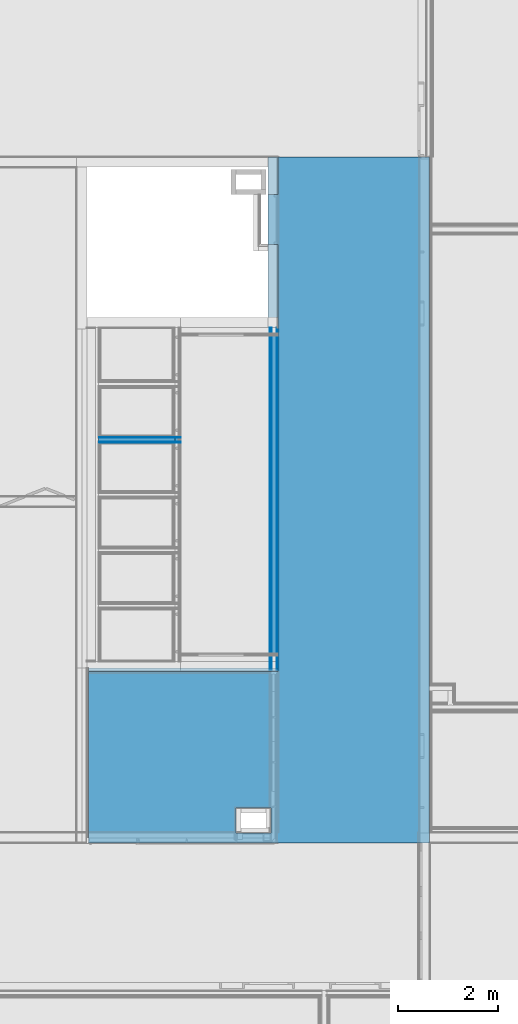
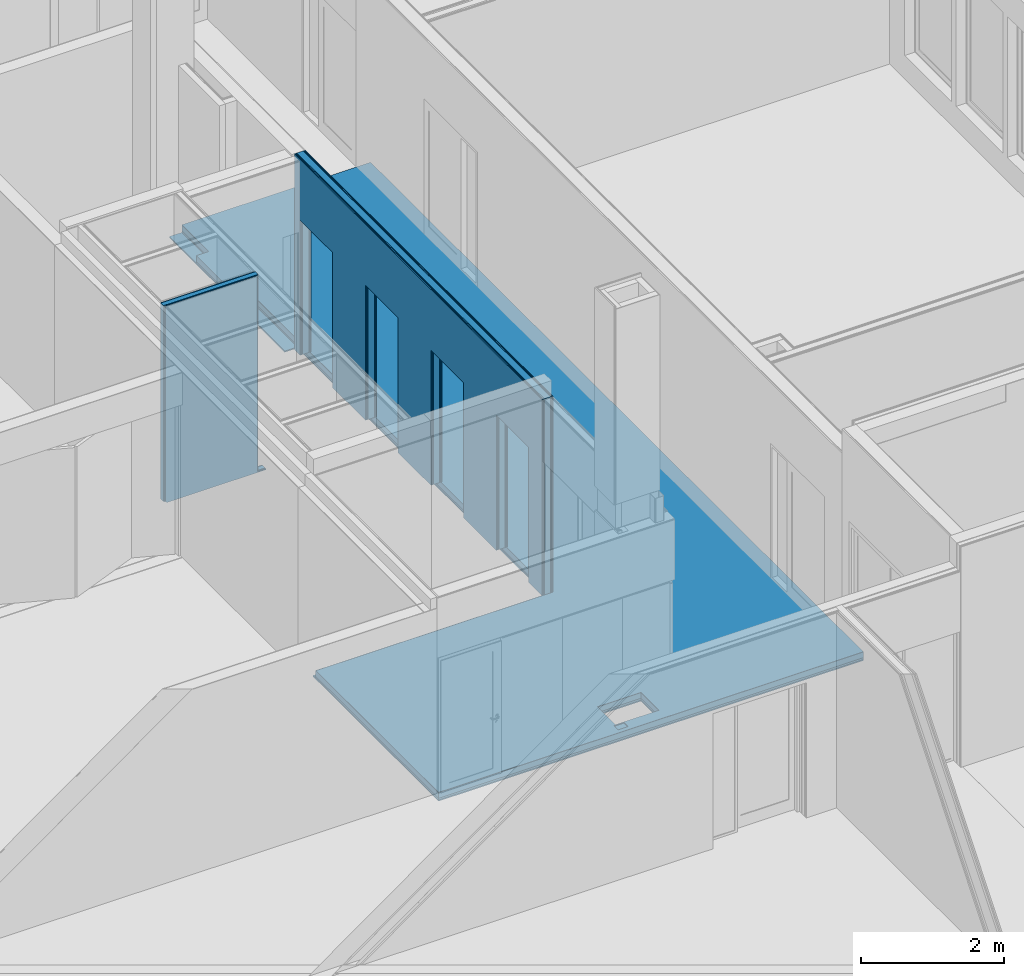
# One storey, part 115 of 139: 15 building element parts, 4 openings, 3 elements without a shape of their own.
"""IFC2X3 building model written with IfcOpenShell, lengths in millimetres."""

from ifc_helpers import new_model, entity, si_unit, converted_unit, derived_unit, money_unit, direction, frame, origin_with_axes, place, context, subcontext, project, spatial, faceted_brep, material, type_object, element, aggregate, save


model = new_model("IFC2X3")

# Units and contexts
model_context = context("Model", 3, precision=0.01, world=origin_with_axes(), true_north=direction((0.0, 1.0)))
body_context = subcontext(model_context, "Body", "Model", "MODEL_VIEW")
ifc_project = project(units=[si_unit("LENGTHUNIT", "METRE", prefix="MILLI"), si_unit("AREAUNIT", "SQUARE_METRE"), si_unit("VOLUMEUNIT", "CUBIC_METRE"), converted_unit("PLANEANGLEUNIT", "DEGREE", entity("IfcPlaneAngleMeasure", 0.0174532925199), si_unit("PLANEANGLEUNIT", "RADIAN"), dimensions=[0, 0, 0, 0, 0, 0, 0]), money_unit("EUR"), converted_unit("TIMEUNIT", "Year", entity("IfcTimeMeasure", 31556926.0), si_unit("TIMEUNIT", "SECOND"), dimensions=[0, 0, 1, 0, 0, 0, 0]), si_unit("MASSUNIT", "GRAM", prefix="KILO"), si_unit("THERMODYNAMICTEMPERATUREUNIT", "DEGREE_CELSIUS"), si_unit("LUMINOUSINTENSITYUNIT", "LUMEN"), si_unit("ENERGYUNIT", "JOULE", prefix="MEGA"), derived_unit("THERMALCONDUCTANCEUNIT", [(si_unit("POWERUNIT", "WATT"), 1), (si_unit("LENGTHUNIT", "METRE"), -1), (si_unit("THERMODYNAMICTEMPERATUREUNIT", "KELVIN"), -1)]), derived_unit("SPECIFICHEATCAPACITYUNIT", [(si_unit("ENERGYUNIT", "JOULE"), 1), (si_unit("MASSUNIT", "GRAM", prefix="KILO"), -1), (si_unit("THERMODYNAMICTEMPERATUREUNIT", "KELVIN"), -1)]), derived_unit("MASSDENSITYUNIT", [(si_unit("MASSUNIT", "GRAM", prefix="KILO"), 1), (si_unit("VOLUMEUNIT", "CUBIC_METRE"), -1)])], contexts=[model_context])

# Site, building, storey
site_placement = place(None, origin_with_axes())
site = spatial("IfcSite", under=ifc_project, at=site_placement, Name="Kolde pst 67a", CompositionType="ELEMENT")
building_placement = place(site_placement, origin_with_axes())
building = spatial("IfcBuilding", under=site, at=building_placement, Name="Riigigümnaasium", CompositionType="ELEMENT")
storey_placement = place(building_placement, frame((0.0, 0.0, 4600.0), z_axis=(0.0, 0.0, 1.0), x_axis=(1.0, 0.0, 0.0)))
storey = spatial("IfcBuildingStorey", under=building, at=storey_placement, Name="2. korrus", CompositionType="ELEMENT", Elevation=4600.0)

# Wall, openings, building element parts
wall_type_1 = type_object("IfcWallType", Name="SS-MK-10/7_ plaat+krohv 175", PredefinedType="NOTDEFINED")
wall_1_placement = place(storey_placement, frame((73794.99953, 21023.7853231, 0.0), z_axis=(0.0, 0.0, 1.0), x_axis=(0.0, -1.0, 0.0)))
wall_1 = element("IfcWall", 1, at=wall_1_placement, inside=storey, type_object=wall_type_1, Name="Sisesein")
opening_1_placement = place(wall_1_placement, frame((6083.82001111, 0.0, 0.0), z_axis=(0.0, 0.0, 1.0), x_axis=(1.0, 0.0, 0.0)))
element("IfcOpeningElement", 2, at=opening_1_placement, cuts=wall_1, Name="Ukseava", context=body_context, shape_type="Brep", body=[
    faceted_brep([(450.0, 350.0, 0.0), (450.0, 350.0, 2300.0), (450.0, -175.0, 2300.0), (450.0, -175.0, 0.0), (-450.0, 350.0, 0.0), (-450.0, 350.0, 2300.0), (-450.0, -175.0, 2300.0), (-450.0, -175.0, 0.0)], [[[0, 1, 2, 3]], [[0, 4, 5, 1]], [[1, 5, 6, 2]], [[3, 2, 6, 7]], [[4, 0, 3, 7]], [[5, 4, 7, 6]]]),
])
opening_2_placement = place(wall_1_placement, frame((4258.82001111, 0.0, 0.0), z_axis=(0.0, 0.0, 1.0), x_axis=(1.0, 0.0, 0.0)))
element("IfcOpeningElement", 3, at=opening_2_placement, cuts=wall_1, Name="Ukseava", context=body_context, shape_type="Brep", body=[
    faceted_brep([(450.0, 350.0, 0.0), (450.0, 350.0, 2300.0), (450.0, -175.0, 2300.0), (450.0, -175.0, 0.0), (-450.0, 350.0, 0.0), (-450.0, 350.0, 2300.0), (-450.0, -175.0, 2300.0), (-450.0, -175.0, 0.0)], [[[0, 1, 2, 3]], [[0, 4, 5, 1]], [[1, 5, 6, 2]], [[3, 2, 6, 7]], [[4, 0, 3, 7]], [[5, 4, 7, 6]]]),
])
opening_3_placement = place(wall_1_placement, frame((2433.82001111, 0.0, 0.0), z_axis=(0.0, 0.0, 1.0), x_axis=(1.0, 0.0, 0.0)))
element("IfcOpeningElement", 4, at=opening_3_placement, cuts=wall_1, Name="Ukseava", context=body_context, shape_type="Brep", body=[
    faceted_brep([(450.0, 350.0, 0.0), (450.0, 350.0, 2300.0), (450.0, -175.0, 2300.0), (450.0, -175.0, 0.0), (-450.0, 350.0, 0.0), (-450.0, 350.0, 2300.0), (-450.0, -175.0, 2300.0), (-450.0, -175.0, 0.0)], [[[0, 1, 2, 3]], [[0, 4, 5, 1]], [[1, 5, 6, 2]], [[3, 2, 6, 7]], [[4, 0, 3, 7]], [[5, 4, 7, 6]]]),
])
opening_4_placement = place(wall_1_placement, frame((608.785339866, 0.0, 0.0), z_axis=(0.0, 0.0, 1.0), x_axis=(1.0, 0.0, 0.0)))
element("IfcOpeningElement", 5, at=opening_4_placement, cuts=wall_1, Name="Ukseava", context=body_context, shape_type="Brep", body=[
    faceted_brep([(450.0, 350.0, 0.0), (450.0, 350.0, 2300.0), (450.0, -175.0, 2300.0), (450.0, -175.0, 0.0), (-450.0, 350.0, 0.0), (-450.0, 350.0, 2300.0), (-450.0, -175.0, 2300.0), (-450.0, -175.0, 0.0)], [[[0, 1, 2, 3]], [[0, 4, 5, 1]], [[1, 5, 6, 2]], [[3, 2, 6, 7]], [[4, 0, 3, 7]], [[5, 4, 7, 6]]]),
])
ifc_material_1 = material(Name="_VIIMISTLUSKIHT - viimistlus vastavalt SA osale")
building_element_part_1_placement = place(wall_1_placement, origin_with_axes())
building_element_part_1 = element("IfcBuildingElementPart", 6, at=building_element_part_1_placement, material=ifc_material_1, Name="_VIIMISTLUSKIHT - viimistlus vastavalt SA osale", context=body_context, shape_type="Brep", body=[
    faceted_brep([(1058.78533987, 0.0, 0.0), (1058.78533987, 0.0, 2300.0), (158.785339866, 0.0, 2300.0), (158.785339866, 0.0, 0.0), (0.0, 0.0, 0.0), (0.0, 0.0, 3335.0), (6904.42001122, 0.0, 3335.0), (6904.42001122, 0.0, 0.0), (6533.82001111, 0.0, 0.0), (6533.82001111, 0.0, 2300.0), (5633.82001111, 0.0, 2300.0), (5633.82001111, 0.0, 0.0), (4708.82001111, 0.0, 0.0), (4708.82001111, 0.0, 2300.0), (3808.82001111, 0.0, 2300.0), (3808.82001111, 0.0, 0.0), (2883.82001111, 0.0, 0.0), (2883.82001111, 0.0, 2300.0), (1983.82001111, 0.0, 2300.0), (1983.82001111, 0.0, 0.0), (1058.78533987, -10.0, 0.0), (1058.78533987, -10.0, 2300.0), (158.785339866, -10.0, 2300.0), (158.785339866, -10.0, 0.0), (0.0, -10.0, 0.0), (0.0, -10.0, 3335.0), (6904.42001122, -10.0, 3335.0), (6904.42001122, -10.0, 0.0), (6533.82001111, -10.0, 0.0), (6533.82001111, -10.0, 2300.0), (5633.82001111, -10.0, 2300.0), (5633.82001111, -10.0, 0.0), (4708.82001111, -10.0, 0.0), (4708.82001111, -10.0, 2300.0), (3808.82001111, -10.0, 2300.0), (3808.82001111, -10.0, 0.0), (2883.82001111, -10.0, 0.0), (2883.82001111, -10.0, 2300.0), (1983.82001111, -10.0, 2300.0), (1983.82001111, -10.0, 0.0)], [[[0, 1, 2, 3, 4, 5, 6, 7, 8, 9, 10, 11, 12, 13, 14, 15, 16, 17, 18, 19]], [[1, 0, 20, 21]], [[2, 1, 21, 22]], [[3, 2, 22, 23]], [[3, 23, 24, 4]], [[25, 5, 4, 24]], [[25, 26, 6, 5]], [[6, 26, 27, 7]], [[27, 28, 8, 7]], [[29, 9, 8, 28]], [[30, 10, 9, 29]], [[31, 11, 10, 30]], [[11, 31, 32, 12]], [[32, 33, 13, 12]], [[33, 34, 14, 13]], [[34, 35, 15, 14]], [[16, 15, 35, 36]], [[16, 36, 37, 17]], [[17, 37, 38, 18]], [[18, 38, 39, 19]], [[20, 0, 19, 39]], [[21, 20, 39, 38, 37, 36, 35, 34, 33, 32, 31, 30, 29, 28, 27, 26, 25, 24, 23, 22]]]),
])
ifc_material_2 = material(Name="_PLAATMATERJAL - tuletõkkekipsplaat, Knauf Red GKF või samaväärne")
building_element_part_2_placement = place(wall_1_placement, origin_with_axes())
building_element_part_2 = element("IfcBuildingElementPart", 7, at=building_element_part_2_placement, material=ifc_material_2, Name="_PLAATMATERJAL - tuletõkkekipsplaat, Knauf Red GKF või samaväärne", context=body_context, shape_type="Brep", body=[
    faceted_brep([(1058.78533987, -10.0, 0.0), (1058.78533987, -10.0, 2300.0), (158.785339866, -10.0, 2300.0), (158.785339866, -10.0, 0.0), (0.0, -10.0, 0.0), (0.0, -10.0, 3335.0), (6904.42001122, -10.0, 3335.0), (6904.42001122, -10.0, 0.0), (6533.82001111, -10.0, 0.0), (6533.82001111, -10.0, 2300.0), (5633.82001111, -10.0, 2300.0), (5633.82001111, -10.0, 0.0), (4708.82001111, -10.0, 0.0), (4708.82001111, -10.0, 2300.0), (3808.82001111, -10.0, 2300.0), (3808.82001111, -10.0, 0.0), (2883.82001111, -10.0, 0.0), (2883.82001111, -10.0, 2300.0), (1983.82001111, -10.0, 2300.0), (1983.82001111, -10.0, 0.0), (1058.78533987, -22.5, 0.0), (1058.78533987, -22.5, 2300.0), (158.785339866, -22.5, 2300.0), (158.785339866, -22.5, 0.0), (0.0, -22.5, 0.0), (0.0, -22.5, 3335.0), (6904.42001122, -22.5, 3335.0), (6904.42001122, -22.5, 0.0), (6533.82001111, -22.5, 0.0), (6533.82001111, -22.5, 2300.0), (5633.82001111, -22.5, 2300.0), (5633.82001111, -22.5, 0.0), (4708.82001111, -22.5, 0.0), (4708.82001111, -22.5, 2300.0), (3808.82001111, -22.5, 2300.0), (3808.82001111, -22.5, 0.0), (2883.82001111, -22.5, 0.0), (2883.82001111, -22.5, 2300.0), (1983.82001111, -22.5, 2300.0), (1983.82001111, -22.5, 0.0)], [[[0, 1, 2, 3, 4, 5, 6, 7, 8, 9, 10, 11, 12, 13, 14, 15, 16, 17, 18, 19]], [[1, 0, 20, 21]], [[2, 1, 21, 22]], [[3, 2, 22, 23]], [[3, 23, 24, 4]], [[25, 5, 4, 24]], [[26, 6, 5, 25]], [[6, 26, 27, 7]], [[27, 28, 8, 7]], [[29, 9, 8, 28]], [[30, 10, 9, 29]], [[31, 11, 10, 30]], [[11, 31, 32, 12]], [[32, 33, 13, 12]], [[33, 34, 14, 13]], [[34, 35, 15, 14]], [[16, 15, 35, 36]], [[16, 36, 37, 17]], [[17, 37, 38, 18]], [[18, 38, 39, 19]], [[20, 0, 19, 39]], [[21, 20, 39, 38, 37, 36, 35, 34, 33, 32, 31, 30, 29, 28, 27, 26, 25, 24, 23, 22]]]),
])
building_element_part_3_placement = place(wall_1_placement, origin_with_axes())
building_element_part_3 = element("IfcBuildingElementPart", 8, at=building_element_part_3_placement, material=ifc_material_2, Name="_PLAATMATERJAL - tuletõkkekipsplaat, Knauf Red GKF või samaväärne", context=body_context, shape_type="Brep", body=[
    faceted_brep([(1058.78533987, -22.5, 0.0), (1058.78533987, -22.5, 2300.0), (158.785339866, -22.5, 2300.0), (158.785339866, -22.5, 0.0), (0.0, -22.5, 0.0), (0.0, -22.5, 3335.0), (6904.42001122, -22.5, 3335.0), (6904.42001122, -22.5, 0.0), (6533.82001111, -22.5, 0.0), (6533.82001111, -22.5, 2300.0), (5633.82001111, -22.5, 2300.0), (5633.82001111, -22.5, 0.0), (4708.82001111, -22.5, 0.0), (4708.82001111, -22.5, 2300.0), (3808.82001111, -22.5, 2300.0), (3808.82001111, -22.5, 0.0), (2883.82001111, -22.5, 0.0), (2883.82001111, -22.5, 2300.0), (1983.82001111, -22.5, 2300.0), (1983.82001111, -22.5, 0.0), (1058.78533987, -35.0, 0.0), (1058.78533987, -35.0, 2300.0), (158.785339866, -35.0, 2300.0), (158.785339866, -35.0, 0.0), (0.0, -35.0, 0.0), (0.0, -35.0, 3335.0), (6904.42001122, -35.0, 3335.0), (6904.42001122, -35.0, 0.0), (6533.82001111, -35.0, 0.0), (6533.82001111, -35.0, 2300.0), (5633.82001111, -35.0, 2300.0), (5633.82001111, -35.0, 0.0), (4708.82001111, -35.0, 0.0), (4708.82001111, -35.0, 2300.0), (3808.82001111, -35.0, 2300.0), (3808.82001111, -35.0, 0.0), (2883.82001111, -35.0, 0.0), (2883.82001111, -35.0, 2300.0), (1983.82001111, -35.0, 2300.0), (1983.82001111, -35.0, 0.0)], [[[0, 1, 2, 3, 4, 5, 6, 7, 8, 9, 10, 11, 12, 13, 14, 15, 16, 17, 18, 19]], [[1, 0, 20, 21]], [[2, 1, 21, 22]], [[3, 2, 22, 23]], [[3, 23, 24, 4]], [[25, 5, 4, 24]], [[5, 25, 26, 6]], [[6, 26, 27, 7]], [[27, 28, 8, 7]], [[29, 9, 8, 28]], [[30, 10, 9, 29]], [[31, 11, 10, 30]], [[11, 31, 32, 12]], [[32, 33, 13, 12]], [[33, 34, 14, 13]], [[34, 35, 15, 14]], [[16, 15, 35, 36]], [[16, 36, 37, 17]], [[17, 37, 38, 18]], [[18, 38, 39, 19]], [[20, 0, 19, 39]], [[21, 20, 39, 38, 37, 36, 35, 34, 33, 32, 31, 30, 29, 28, 27, 26, 25, 24, 23, 22]]]),
])
ifc_material_3 = material(Name="_KARKASS - metallkarkass CW 100/50/06 ja UW 100/40/06, samm 600, vahel mineraalvill, helineeldetegur αw = 1.0,  ISOVER ACOUSTIC 100mm või samaväärne")
building_element_part_4_placement = place(wall_1_placement, origin_with_axes())
building_element_part_4 = element("IfcBuildingElementPart", 9, at=building_element_part_4_placement, material=ifc_material_3, Name="_KARKASS - metallkarkass CW 100/50/06 ja UW 100/40/06, samm 600, vahel mineraalvill, helineeldetegur αw = 1.0,  ISOVER ACOUSTIC 100mm või samaväärne", context=body_context, shape_type="Brep", body=[
    faceted_brep([(1058.78533987, -35.0, 0.0), (1058.78533987, -35.0, 2300.0), (158.785339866, -35.0, 2300.0), (158.785339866, -35.0, 0.0), (0.0, -35.0, 0.0), (0.0, -35.0, 3335.0), (6904.42001122, -35.0, 3335.0), (6904.42001122, -35.0, 0.0), (6533.82001111, -35.0, 0.0), (6533.82001111, -35.0, 2300.0), (5633.82001111, -35.0, 2300.0), (5633.82001111, -35.0, 0.0), (4708.82001111, -35.0, 0.0), (4708.82001111, -35.0, 2300.0), (3808.82001111, -35.0, 2300.0), (3808.82001111, -35.0, 0.0), (2883.82001111, -35.0, 0.0), (2883.82001111, -35.0, 2300.0), (1983.82001111, -35.0, 2300.0), (1983.82001111, -35.0, 0.0), (1058.78533987, -135.0, 0.0), (1058.78533987, -135.0, 2300.0), (158.785339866, -135.0, 2300.0), (158.785339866, -135.0, 0.0), (0.0, -135.0, 0.0), (0.0, -135.0, 3335.0), (6904.42001122, -135.0, 3335.0), (6904.42001122, -135.0, 0.0), (6533.82001111, -135.0, 0.0), (6533.82001111, -135.0, 2300.0), (5633.82001111, -135.0, 2300.0), (5633.82001111, -135.0, 0.0), (4708.82001111, -135.0, 0.0), (4708.82001111, -135.0, 2300.0), (3808.82001111, -135.0, 2300.0), (3808.82001111, -135.0, 0.0), (2883.82001111, -135.0, 0.0), (2883.82001111, -135.0, 2300.0), (1983.82001111, -135.0, 2300.0), (1983.82001111, -135.0, 0.0)], [[[0, 1, 2, 3, 4, 5, 6, 7, 8, 9, 10, 11, 12, 13, 14, 15, 16, 17, 18, 19]], [[1, 0, 20, 21]], [[2, 1, 21, 22]], [[3, 2, 22, 23]], [[3, 23, 24, 4]], [[25, 5, 4, 24]], [[5, 25, 26, 6]], [[6, 26, 27, 7]], [[27, 28, 8, 7]], [[29, 9, 8, 28]], [[30, 10, 9, 29]], [[31, 11, 10, 30]], [[11, 31, 32, 12]], [[32, 33, 13, 12]], [[33, 34, 14, 13]], [[34, 35, 15, 14]], [[16, 15, 35, 36]], [[16, 36, 37, 17]], [[17, 37, 38, 18]], [[18, 38, 39, 19]], [[20, 0, 19, 39]], [[21, 20, 39, 38, 37, 36, 35, 34, 33, 32, 31, 30, 29, 28, 27, 26, 25, 24, 23, 22]]]),
])
building_element_part_5_placement = place(wall_1_placement, origin_with_axes())
building_element_part_5 = element("IfcBuildingElementPart", 10, at=building_element_part_5_placement, material=ifc_material_2, Name="_PLAATMATERJAL - tuletõkkekipsplaat, Knauf Red GKF või samaväärne", context=body_context, shape_type="Brep", body=[
    faceted_brep([(1058.78533987, -135.0, 0.0), (1058.78533987, -135.0, 2300.0), (158.785339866, -135.0, 2300.0), (158.785339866, -135.0, 0.0), (0.0, -135.0, 0.0), (0.0, -135.0, 3335.0), (6904.42001122, -135.0, 3335.0), (6904.42001122, -135.0, 0.0), (6533.82001111, -135.0, 0.0), (6533.82001111, -135.0, 2300.0), (5633.82001111, -135.0, 2300.0), (5633.82001111, -135.0, 0.0), (4708.82001111, -135.0, 0.0), (4708.82001111, -135.0, 2300.0), (3808.82001111, -135.0, 2300.0), (3808.82001111, -135.0, 0.0), (2883.82001111, -135.0, 0.0), (2883.82001111, -135.0, 2300.0), (1983.82001111, -135.0, 2300.0), (1983.82001111, -135.0, 0.0), (1058.78533987, -147.5, 0.0), (1058.78533987, -147.5, 2300.0), (158.785339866, -147.5, 2300.0), (158.785339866, -147.5, 0.0), (0.0, -147.5, 0.0), (0.0, -147.5, 3335.0), (6904.42001122, -147.5, 3335.0), (6904.42001122, -147.5, 0.0), (6533.82001111, -147.5, 0.0), (6533.82001111, -147.5, 2300.0), (5633.82001111, -147.5, 2300.0), (5633.82001111, -147.5, 0.0), (4708.82001111, -147.5, 0.0), (4708.82001111, -147.5, 2300.0), (3808.82001111, -147.5, 2300.0), (3808.82001111, -147.5, 0.0), (2883.82001111, -147.5, 0.0), (2883.82001111, -147.5, 2300.0), (1983.82001111, -147.5, 2300.0), (1983.82001111, -147.5, 0.0)], [[[0, 1, 2, 3, 4, 5, 6, 7, 8, 9, 10, 11, 12, 13, 14, 15, 16, 17, 18, 19]], [[1, 0, 20, 21]], [[2, 1, 21, 22]], [[3, 2, 22, 23]], [[3, 23, 24, 4]], [[25, 5, 4, 24]], [[5, 25, 26, 6]], [[6, 26, 27, 7]], [[27, 28, 8, 7]], [[29, 9, 8, 28]], [[30, 10, 9, 29]], [[31, 11, 10, 30]], [[11, 31, 32, 12]], [[32, 33, 13, 12]], [[33, 34, 14, 13]], [[34, 35, 15, 14]], [[16, 15, 35, 36]], [[16, 36, 37, 17]], [[17, 37, 38, 18]], [[18, 38, 39, 19]], [[20, 0, 19, 39]], [[21, 20, 39, 38, 37, 36, 35, 34, 33, 32, 31, 30, 29, 28, 27, 26, 25, 24, 23, 22]]]),
])
building_element_part_6_placement = place(wall_1_placement, origin_with_axes())
building_element_part_6 = element("IfcBuildingElementPart", 11, at=building_element_part_6_placement, material=ifc_material_2, Name="_PLAATMATERJAL - tuletõkkekipsplaat, Knauf Red GKF või samaväärne", context=body_context, shape_type="Brep", body=[
    faceted_brep([(1058.78533987, -147.5, 0.0), (1058.78533987, -147.5, 2300.0), (158.785339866, -147.5, 2300.0), (158.785339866, -147.5, 0.0), (0.0, -147.5, 0.0), (0.0, -147.5, 3335.0), (6904.42001122, -147.5, 3335.0), (6904.42001122, -147.5, 0.0), (6533.82001111, -147.5, 0.0), (6533.82001111, -147.5, 2300.0), (5633.82001111, -147.5, 2300.0), (5633.82001111, -147.5, 0.0), (4708.82001111, -147.5, 0.0), (4708.82001111, -147.5, 2300.0), (3808.82001111, -147.5, 2300.0), (3808.82001111, -147.5, 0.0), (2883.82001111, -147.5, 0.0), (2883.82001111, -147.5, 2300.0), (1983.82001111, -147.5, 2300.0), (1983.82001111, -147.5, 0.0), (1058.78533987, -160.0, 0.0), (1058.78533987, -160.0, 2300.0), (158.785339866, -160.0, 2300.0), (158.785339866, -160.0, 0.0), (0.0, -160.0, 0.0), (0.0, -160.0, 3335.0), (6904.42001122, -160.0, 3335.0), (6904.42001122, -160.0, 0.0), (6533.82001111, -160.0, 0.0), (6533.82001111, -160.0, 2300.0), (5633.82001111, -160.0, 2300.0), (5633.82001111, -160.0, 0.0), (4708.82001111, -160.0, 0.0), (4708.82001111, -160.0, 2300.0), (3808.82001111, -160.0, 2300.0), (3808.82001111, -160.0, 0.0), (2883.82001111, -160.0, 0.0), (2883.82001111, -160.0, 2300.0), (1983.82001111, -160.0, 2300.0), (1983.82001111, -160.0, 0.0)], [[[0, 1, 2, 3, 4, 5, 6, 7, 8, 9, 10, 11, 12, 13, 14, 15, 16, 17, 18, 19]], [[1, 0, 20, 21]], [[2, 1, 21, 22]], [[3, 2, 22, 23]], [[3, 23, 24, 4]], [[25, 5, 4, 24]], [[5, 25, 26, 6]], [[6, 26, 27, 7]], [[27, 28, 8, 7]], [[29, 9, 8, 28]], [[30, 10, 9, 29]], [[31, 11, 10, 30]], [[11, 31, 32, 12]], [[32, 33, 13, 12]], [[33, 34, 14, 13]], [[34, 35, 15, 14]], [[16, 15, 35, 36]], [[16, 36, 37, 17]], [[17, 37, 38, 18]], [[18, 38, 39, 19]], [[20, 0, 19, 39]], [[21, 20, 39, 38, 37, 36, 35, 34, 33, 32, 31, 30, 29, 28, 27, 26, 25, 24, 23, 22]]]),
])
building_element_part_7_placement = place(wall_1_placement, origin_with_axes())
building_element_part_7 = element("IfcBuildingElementPart", 12, at=building_element_part_7_placement, material=ifc_material_1, Name="_VIIMISTLUSKIHT - viimistlus vastavalt SA osale", context=body_context, shape_type="Brep", body=[
    faceted_brep([(1058.78533987, -160.0, 0.0), (1058.78533987, -160.0, 2300.0), (158.785339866, -160.0, 2300.0), (158.785339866, -160.0, 0.0), (0.0, -160.0, 0.0), (0.0, -160.0, 3335.0), (6904.42001122, -160.0, 3335.0), (6904.42001122, -160.0, 0.0), (6533.82001111, -160.0, 0.0), (6533.82001111, -160.0, 2300.0), (5633.82001111, -160.0, 2300.0), (5633.82001111, -160.0, 0.0), (4708.82001111, -160.0, 0.0), (4708.82001111, -160.0, 2300.0), (3808.82001111, -160.0, 2300.0), (3808.82001111, -160.0, 0.0), (2883.82001111, -160.0, 0.0), (2883.82001111, -160.0, 2300.0), (1983.82001111, -160.0, 2300.0), (1983.82001111, -160.0, 0.0), (1058.78533987, -175.0, 0.0), (1058.78533987, -175.0, 2300.0), (158.785339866, -175.0, 2300.0), (158.785339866, -175.0, 0.0), (0.0, -175.0, 0.0), (0.0, -175.0, 3335.0), (6904.42001122, -175.0, 3335.0), (6904.42001122, -175.0, 0.0), (6533.82001111, -175.0, 0.0), (6533.82001111, -175.0, 2300.0), (5633.82001111, -175.0, 2300.0), (5633.82001111, -175.0, 0.0), (4708.82001111, -175.0, 0.0), (4708.82001111, -175.0, 2300.0), (3808.82001111, -175.0, 2300.0), (3808.82001111, -175.0, 0.0), (2883.82001111, -175.0, 0.0), (2883.82001111, -175.0, 2300.0), (1983.82001111, -175.0, 2300.0), (1983.82001111, -175.0, 0.0)], [[[0, 1, 2, 3, 4, 5, 6, 7, 8, 9, 10, 11, 12, 13, 14, 15, 16, 17, 18, 19]], [[1, 0, 20, 21]], [[2, 1, 21, 22]], [[3, 2, 22, 23]], [[3, 23, 24, 4]], [[25, 5, 4, 24]], [[5, 25, 26, 6]], [[6, 26, 27, 7]], [[27, 28, 8, 7]], [[29, 9, 8, 28]], [[30, 10, 9, 29]], [[31, 11, 10, 30]], [[11, 31, 32, 12]], [[32, 33, 13, 12]], [[33, 34, 14, 13]], [[34, 35, 15, 14]], [[16, 15, 35, 36]], [[16, 36, 37, 17]], [[17, 37, 38, 18]], [[18, 38, 39, 19]], [[20, 0, 19, 39]], [[21, 20, 39, 38, 37, 36, 35, 34, 33, 32, 31, 30, 29, 28, 27, 26, 25, 24, 23, 22]]]),
])
aggregate(wall_1, [building_element_part_1, building_element_part_2, building_element_part_3, building_element_part_4, building_element_part_5, building_element_part_6, building_element_part_7])

# Wall, building element parts
wall_type_2 = type_object("IfcWallType", Name="SS-MK-7,5/1_plaaditud 155", PredefinedType="NOTDEFINED")
wall_2_placement = place(storey_placement, frame((70229.9984282, 18854.9999708, -15.0), z_axis=(0.0, 0.0, 1.0), x_axis=(1.0, 0.0, 0.0)))
wall_2 = element("IfcWall", 13, at=wall_2_placement, inside=storey, type_object=wall_type_2, Name="Sisesein")
ifc_material_4 = material(Name="_PLAATMATERJAL - kipsplaat veekindel")
building_element_part_8_placement = place(wall_2_placement, origin_with_axes())
building_element_part_8 = element("IfcBuildingElementPart", 14, at=building_element_part_8_placement, material=ifc_material_4, Name="_PLAATMATERJAL - kipsplaat veekindel", context=body_context, shape_type="Brep", body=[
    faceted_brep([(-27.499629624, -27.5, 3350.0), (1472.50120484, -27.5, 3350.0), (1472.50120484, -27.5, 15.0), (1600.00120484, -27.5, 15.0), (1600.00117477, -27.5, 0.0), (0.0, -27.5, 0.0), (0.0, -27.5, 15.0), (-27.499629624, -27.5, 15.0), (1472.50120639, -40.0, 3350.0), (-27.499629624, -40.0, 3350.0), (1472.50120639, -40.0, 15.0), (1600.00120639, -40.0, 15.0), (1600.00117477, -40.0, 0.0), (0.0, -40.0, 0.0), (0.0, -40.0, 15.0), (-27.499629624, -40.0, 15.0)], [[[0, 1, 2, 3, 4, 5, 6, 7]], [[8, 1, 0, 9]], [[1, 8, 10, 2]], [[3, 2, 10, 11]], [[4, 3, 11, 12]], [[13, 5, 4, 12]], [[13, 14, 6, 5]], [[14, 15, 7, 6]], [[9, 0, 7, 15]], [[8, 9, 15, 14, 13, 12, 11, 10]]]),
])
ifc_material_5 = material(Name="_KARKASS - metallkarkass CW 75/50, mineraalvill karkassi vahel")
building_element_part_9_placement = place(wall_2_placement, origin_with_axes())
building_element_part_9 = element("IfcBuildingElementPart", 15, at=building_element_part_9_placement, material=ifc_material_5, Name="_KARKASS - metallkarkass CW 75/50, mineraalvill karkassi vahel", context=body_context, shape_type="Brep", body=[
    faceted_brep([(-39.9996284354, -40.0, 3350.0), (1485.00120491, -40.0, 3350.0), (1485.00120639, -40.0, 15.0), (1600.00120639, -40.0, 15.0), (1600.00117477, -40.0, 0.0), (0.0, -40.0, 0.0), (0.0, -40.0, 15.0), (-39.999629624, -40.0, 15.0), (1485.00121423, -115.0, 3350.0), (-39.9996284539, -115.0, 3350.0), (1485.00121569, -115.0, 15.0), (1600.00121569, -115.0, 15.0), (1600.00117477, -115.0, 0.0), (0.0, -115.0, 0.0), (0.0, -115.0, 15.0), (-39.999629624, -115.0, 15.0)], [[[0, 1, 2, 3, 4, 5, 6, 7]], [[8, 1, 0, 9]], [[1, 8, 10, 2]], [[3, 2, 10, 11]], [[4, 3, 11, 12]], [[13, 5, 4, 12]], [[13, 14, 6, 5]], [[14, 15, 7, 6]], [[9, 0, 7, 15]], [[8, 9, 15, 14, 13, 12, 11, 10]]]),
])
building_element_part_10_placement = place(wall_2_placement, origin_with_axes())
building_element_part_10 = element("IfcBuildingElementPart", 16, at=building_element_part_10_placement, material=ifc_material_4, Name="_PLAATMATERJAL - kipsplaat veekindel", context=body_context, shape_type="Brep", body=[
    faceted_brep([(-27.499629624, -115.0, 3350.0), (1472.50121569, -115.0, 3350.0), (1472.50121569, -115.0, 15.0), (1600.00121569, -115.0, 15.0), (1600.00117477, -115.0, 0.0), (0.0, -115.0, 0.0), (0.0, -115.0, 15.0), (-27.499629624, -115.0, 15.0), (1472.50121724, -127.5, 3350.0), (-27.499629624, -127.5, 3350.0), (1472.50121724, -127.5, 15.0), (1600.00121724, -127.5, 15.0), (1600.00117477, -127.5, 0.0), (0.0, -127.5, 0.0), (0.0, -127.5, 15.0), (-27.499629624, -127.5, 15.0)], [[[0, 1, 2, 3, 4, 5, 6, 7]], [[8, 1, 0, 9]], [[1, 8, 10, 2]], [[3, 2, 10, 11]], [[4, 3, 11, 12]], [[13, 5, 4, 12]], [[13, 14, 6, 5]], [[14, 15, 7, 6]], [[9, 0, 7, 15]], [[8, 9, 15, 14, 13, 12, 11, 10]]]),
])
building_element_part_11_placement = place(wall_2_placement, origin_with_axes())
building_element_part_11 = element("IfcBuildingElementPart", 17, at=building_element_part_11_placement, material=ifc_material_4, Name="_PLAATMATERJAL - kipsplaat veekindel", context=body_context, shape_type="Brep", body=[
    faceted_brep([(-14.9996306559, -127.5, 3350.0), (1460.00121797, -127.5, 3350.0), (1460.00121724, -127.5, 15.0), (1600.00121724, -127.5, 15.0), (1600.00117477, -127.5, 0.0), (0.0, -127.5, 0.0), (0.0, -127.5, 15.0), (-14.999629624, -127.5, 15.0), (1460.00121952, -140.0, 3350.0), (-14.9996306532, -140.0, 3350.0), (1460.00121879, -140.0, 15.0), (1600.00121879, -140.0, 15.0), (1600.00117477, -140.0, 0.0), (0.0, -140.0, 0.0), (0.0, -140.0, 15.0), (-14.999629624, -140.0, 15.0)], [[[0, 1, 2, 3, 4, 5, 6, 7]], [[8, 1, 0, 9]], [[1, 8, 10, 2]], [[3, 2, 10, 11]], [[4, 3, 11, 12]], [[13, 5, 4, 12]], [[13, 14, 6, 5]], [[14, 15, 7, 6]], [[9, 0, 7, 15]], [[8, 9, 15, 14, 13, 12, 11, 10]]]),
])
aggregate(wall_2, [building_element_part_8, building_element_part_9, building_element_part_10, building_element_part_11])

# Slab, building element parts
slab_type = type_object("IfcSlabType", Name="VL-RB-26/1_PVC 415", PredefinedType="NOTDEFINED")
slab_placement = place(storey_placement, frame((73779.9994534, 14200.0000691, 0.0), z_axis=(0.0, 0.0, 1.0), x_axis=(1.0, 0.0, 0.0)))
slab = element("IfcSlab", 18, at=slab_placement, inside=storey, type_object=slab_type, Name="VAHELAGI", PredefinedType="NOTDEFINED")
building_element_part_12_placement = place(slab_placement, origin_with_axes())
building_element_part_12 = element("IfcBuildingElementPart", 19, at=building_element_part_12_placement, material=ifc_material_1, Name="_VIIMISTLUSKIHT - viimistlus vastavalt SA osale", context=body_context, shape_type="Brep", body=[
    faceted_brep([(-3800.00024033, -3500.03812843, -3.0), (-3800.00024033, -3500.03812843, 0.0), (-3800.00024033, -80.6347572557, 0.0), (-3800.00024033, -80.6347572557, -3.0), (3039.62211596, -3500.29793778, -3.0), (3039.62211596, -3500.29793778, 0.0), (3039.68292569, 10240.0001088, 0.0), (7.66841878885e-05, 10240.0001088, 0.0), (7.68968391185e-05, 9489.99915399, 0.0), (-199.999923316, 9489.99915399, 0.0), (-199.999923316, 8489.99915399, 0.0), (7.71803598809e-05, 8489.99915399, 0.0), (7.76527713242e-05, 7023.78525799, 0.0), (7.76251880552e-05, 6823.78523874, 0.0), (15.0000766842, 6823.78523874, 0.0), (15.0000766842, 6678.78523874, 0.0), (7.76051933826e-05, 6678.78523874, 0.0), (7.66841878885e-05, 0.0, 0.0), (7.66841878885e-05, -80.6347572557, 0.0), (-840.000668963, -3305.06065755, 0.0), (-840.000668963, -2805.05990271, 0.0), (-139.999918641, -2805.05990271, 0.0), (-139.999918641, -3305.06065755, 0.0), (-870.000670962, -3435.03812349, 0.0), (-870.000670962, -3315.0606548, 0.0), (-710.000670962, -3315.0606548, 0.0), (-710.000670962, -3435.03812349, 0.0), (7.66841878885e-05, -80.6347572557, -3.0), (7.66841878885e-05, 0.0, -3.0), (7.76051933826e-05, 6678.78523874, -3.0), (15.0000766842, 6678.78523874, -3.0), (15.0000766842, 6823.78523874, -3.0), (7.76251880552e-05, 6823.78523874, -3.0), (7.76527713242e-05, 7023.78525799, -3.0), (7.71803598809e-05, 8489.99915399, -3.0), (-199.999923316, 8489.99915399, -3.0), (-199.999923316, 9489.99915399, -3.0), (7.68968391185e-05, 9489.99915399, -3.0), (7.66841878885e-05, 10240.0001088, -3.0), (3039.68292569, 10240.0001088, -3.0), (-840.000668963, -2805.05990271, -3.0), (-840.000668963, -3305.06065755, -3.0), (-139.999918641, -3305.06065755, -3.0), (-139.999918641, -2805.05990271, -3.0), (-870.000670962, -3315.0606548, -3.0), (-870.000670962, -3435.03812349, -3.0), (-710.000670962, -3435.03812349, -3.0), (-710.000670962, -3315.0606548, -3.0)], [[[0, 1, 2, 3]], [[1, 0, 4, 5]], [[2, 1, 5, 6, 7, 8, 9, 10, 11, 12, 13, 14, 15, 16, 17, 18], [19, 20, 21, 22], [23, 24, 25, 26]], [[3, 2, 18, 27]], [[0, 3, 27, 28, 29, 30, 31, 32, 33, 34, 35, 36, 37, 38, 39, 4], [40, 41, 42, 43], [44, 45, 46, 47]], [[5, 4, 39, 6]], [[38, 7, 6, 39]], [[38, 37, 8, 7]], [[9, 8, 37, 36]], [[36, 35, 10, 9]], [[35, 34, 11, 10]], [[34, 33, 12, 11]], [[33, 32, 13, 12]], [[14, 13, 32, 31]], [[15, 14, 31, 30]], [[29, 16, 15, 30]], [[28, 17, 16, 29]], [[27, 18, 17, 28]], [[19, 41, 40, 20]], [[20, 40, 43, 21]], [[43, 42, 22, 21]], [[41, 19, 22, 42]], [[45, 44, 24, 23]], [[24, 44, 47, 25]], [[46, 26, 25, 47]], [[45, 23, 26, 46]]]),
])
ifc_material_6 = material(Name="_PEALEVALUKIHT - raudbetoonplaat vastavalt EK osale, vajadusel põrandküte")
building_element_part_13_placement = place(slab_placement, origin_with_axes())
building_element_part_13 = element("IfcBuildingElementPart", 20, at=building_element_part_13_placement, material=ifc_material_6, Name="_PEALEVALUKIHT - raudbetoonplaat vastavalt EK osale, vajadusel põrandküte", context=body_context, shape_type="Brep", body=[
    faceted_brep([(-3800.00024033, -3500.03812843, -100.0), (-3800.00024033, -3500.03812843, -3.0), (-3800.00024033, -70.6347465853, -3.0), (-3800.00024033, -70.6347463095, -100.0), (3039.62211596, -3500.29793778, -100.0), (3039.62211596, -3500.29793778, -3.0), (3039.68292569, 10240.0001088, -3.0), (7.66841878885e-05, 10240.0001088, -3.0), (7.68968391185e-05, 9489.99915399, -3.0), (-199.999923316, 9489.99915399, -3.0), (-199.999923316, 8489.99915399, -3.0), (7.71803598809e-05, 8489.99915399, -3.0), (7.76527713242e-05, 7023.78525799, -3.0), (7.66841878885e-05, 0.0, -3.0), (7.66841878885e-05, -70.6347572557, -3.0), (-840.000668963, -3305.06065755, -3.0), (-840.000668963, -2805.05990271, -3.0), (-139.999918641, -2805.05990271, -3.0), (-139.999918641, -3305.06065755, -3.0), (-870.000670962, -3435.03812349, -3.0), (-870.000670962, -3315.0606548, -3.0), (-710.000670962, -3315.0606548, -3.0), (-710.000670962, -3435.03812349, -3.0), (7.66841878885e-05, -70.6347572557, -100.0), (7.66841878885e-05, 0.0, -100.0), (7.76527713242e-05, 7023.78525799, -100.0), (7.71803598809e-05, 8489.99915399, -100.0), (-199.999923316, 8489.99915399, -100.0), (-199.999923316, 9489.99915399, -100.0), (7.68968391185e-05, 9489.99915399, -100.0), (7.66841878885e-05, 10240.0001088, -100.0), (3039.68292569, 10240.0001088, -100.0), (-840.000668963, -2805.05990271, -100.0), (-840.000668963, -3305.06065755, -100.0), (-139.999918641, -3305.06065755, -100.0), (-139.999918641, -2805.05990271, -100.0), (-870.000670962, -3435.03812349, -15.0), (-870.000670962, -3315.0606548, -15.0), (-710.000670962, -3315.0606548, -15.0), (-710.000670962, -3435.03812349, -15.0)], [[[0, 1, 2, 3]], [[1, 0, 4, 5]], [[2, 1, 5, 6, 7, 8, 9, 10, 11, 12, 13, 14], [15, 16, 17, 18], [19, 20, 21, 22]], [[3, 2, 14, 23]], [[0, 3, 23, 24, 25, 26, 27, 28, 29, 30, 31, 4], [32, 33, 34, 35]], [[5, 4, 31, 6]], [[31, 30, 7, 6]], [[8, 7, 30, 29]], [[9, 8, 29, 28]], [[27, 10, 9, 28]], [[10, 27, 26, 11]], [[12, 11, 26, 25]], [[13, 12, 25, 24]], [[23, 14, 13, 24]], [[16, 15, 33, 32]], [[32, 35, 17, 16]], [[35, 34, 18, 17]], [[34, 33, 15, 18]], [[19, 36, 37, 20]], [[20, 37, 38, 21]], [[39, 22, 21, 38]], [[36, 19, 22, 39]], [[37, 36, 39, 38]]]),
])
ifc_material_7 = material(Name="_ISOLATSIOON - löögimüraisolatsioon, mineraalvill, koormustaluvus min 20 kPa, dünaamiline jäikus 16 MN/m³, ISOVER FLO või samaväärne")
building_element_part_14_placement = place(slab_placement, origin_with_axes())
building_element_part_14 = element("IfcBuildingElementPart", 21, at=building_element_part_14_placement, material=ifc_material_7, Name="_ISOLATSIOON - löögimüraisolatsioon, mineraalvill, koormustaluvus min 20 kPa, dünaamiline jäikus 16 MN/m³, ISOVER FLO või samaväärne", context=body_context, shape_type="Brep", body=[
    faceted_brep([(-840.000668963, -3305.06065755, -130.0), (-840.000668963, -3305.06065755, -100.0), (-139.999918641, -3305.06065755, -100.0), (-139.999918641, -3305.06065755, -130.0), (-840.000668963, -2805.05990271, -100.0), (-840.000668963, -2805.05990271, -130.0), (-3800.00024033, -70.6347463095, -100.0), (-3800.00024033, -3500.03812843, -100.0), (3039.62211596, -3500.29793778, -100.0), (3039.68292569, 10240.0001088, -100.0), (7.66841878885e-05, 10240.0001088, -100.0), (7.68968391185e-05, 9489.99915399, -100.0), (-199.999923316, 9489.99915399, -100.0), (-199.999923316, 8489.99915399, -100.0), (7.71803598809e-05, 8489.99915399, -100.0), (7.76527713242e-05, 7023.78525799, -100.0), (7.66841878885e-05, 0.0, -100.0), (7.66841878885e-05, -70.6347572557, -100.0), (-139.999918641, -2805.05990271, -100.0), (-139.999918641, -2805.05990271, -130.0), (-3800.00024033, -3500.03812843, -130.0), (-3800.00024033, -70.6347462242, -130.0), (7.66841878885e-05, -70.6347572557, -130.0), (7.66841878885e-05, 0.0, -130.0), (7.75960700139e-05, 7023.78525799, -130.0), (7.71803598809e-05, 8489.99915399, -130.0), (-199.999923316, 8489.99915399, -130.0), (-199.999923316, 9489.99915399, -130.0), (7.68968391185e-05, 9489.99915399, -130.0), (7.66841878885e-05, 10240.0001088, -130.0), (3039.68292569, 10240.0001088, -130.0), (3039.62211596, -3500.29793778, -130.0)], [[[0, 1, 2, 3]], [[4, 1, 0, 5]], [[6, 7, 8, 9, 10, 11, 12, 13, 14, 15, 16, 17], [1, 4, 18, 2]], [[19, 3, 2, 18]], [[20, 21, 22, 23, 24, 25, 26, 27, 28, 29, 30, 31], [5, 0, 3, 19]], [[18, 4, 5, 19]], [[20, 7, 6, 21]], [[7, 20, 31, 8]], [[8, 31, 30, 9]], [[30, 29, 10, 9]], [[11, 10, 29, 28]], [[12, 11, 28, 27]], [[27, 26, 13, 12]], [[26, 25, 14, 13]], [[15, 14, 25, 24]], [[23, 16, 15, 24]], [[22, 17, 16, 23]], [[21, 6, 17, 22]]]),
])
ifc_material_8 = material(Name="_SOOJUSTUS - vahtpolüstüreenplaadid EPS 80, survetugevus min 80kPa, soojuserijuhtivus λD<0,038 W/(mK)")
building_element_part_15_placement = place(slab_placement, origin_with_axes())
building_element_part_15 = element("IfcBuildingElementPart", 22, at=building_element_part_15_placement, material=ifc_material_8, Name="_SOOJUSTUS - vahtpolüstüreenplaadid EPS 80, survetugevus min 80kPa, soojuserijuhtivus λD<0,038 W/(mK)", context=body_context, shape_type="Brep", body=[
    faceted_brep([(-840.000668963, -2805.05990271, -150.0), (-139.999918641, -2805.05990271, -150.0), (-139.999918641, -2805.05990271, -130.0), (-840.000668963, -2805.05990271, -130.0), (-3800.00024033, -3500.03812843, -150.0), (-3800.00024033, -9.64450919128e-05, -150.0), (0.0, 0.0, -150.0), (0.0, 7023.78525799, -150.0), (-199.999994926, 7023.78525799, -150.0), (-199.999994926, 10240.0001088, -150.0), (3039.68292569, 10240.0001088, -150.0), (3039.62211596, -3500.29793778, -150.0), (-840.000668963, -3305.06065755, -150.0), (-139.999918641, -3305.06065755, -150.0), (-139.999918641, -3305.06065755, -130.0), (-3800.00024033, -9.64450919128e-05, -130.0), (-3800.00024033, -3500.03812843, -130.0), (3039.62211596, -3500.29793778, -130.0), (3039.68292569, 10240.0001088, -130.0), (-199.999994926, 10240.0001088, -130.0), (-199.999994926, 7023.78525799, -130.0), (0.0, 7023.78525799, -130.0), (0.0, 0.0, -130.0), (-840.000668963, -3305.06065755, -130.0)], [[[0, 1, 2, 3]], [[4, 5, 6, 7, 8, 9, 10, 11], [0, 12, 13, 1]], [[13, 14, 2, 1]], [[15, 16, 17, 18, 19, 20, 21, 22], [23, 3, 2, 14]], [[12, 0, 3, 23]], [[4, 16, 15, 5]], [[5, 15, 22, 6]], [[6, 22, 21, 7]], [[20, 8, 7, 21]], [[8, 20, 19, 9]], [[9, 19, 18, 10]], [[17, 11, 10, 18]], [[16, 4, 11, 17]], [[12, 23, 14, 13]]]),
])
aggregate(slab, [building_element_part_12, building_element_part_13, building_element_part_14, building_element_part_15])

save(model, "model.ifc")
